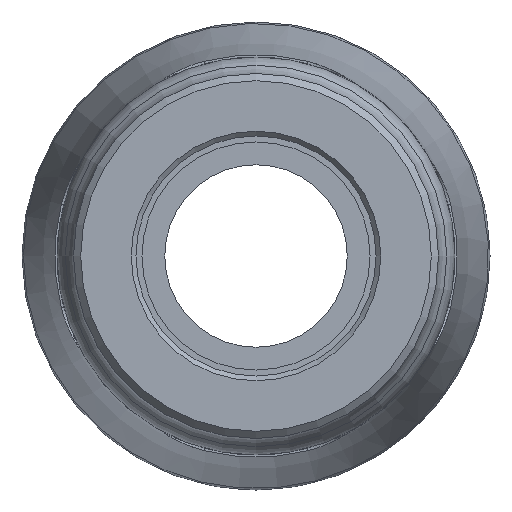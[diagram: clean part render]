
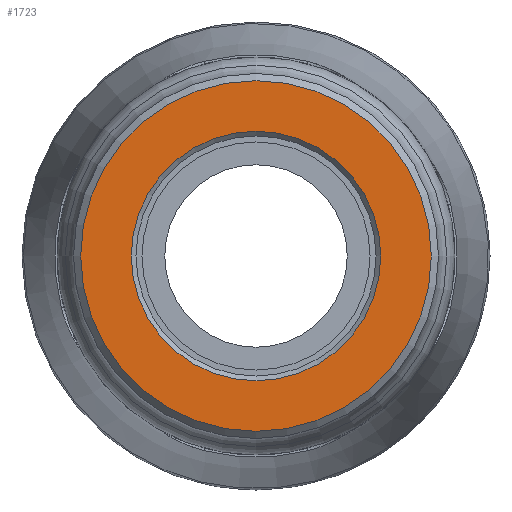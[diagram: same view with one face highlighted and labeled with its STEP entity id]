
A CAD part, left-side view. The second image highlights one B-rep face of the part: STEP entity #1723.
In plain terms, the highlighted planar face has unit normal (-1, 0, 0).
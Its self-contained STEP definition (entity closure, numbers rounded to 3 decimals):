
#28=FACE_BOUND('',#400,.T.);
#211=PLANE('',#1880);
#289=FACE_OUTER_BOUND('',#399,.T.);
#399=EDGE_LOOP('',(#1218));
#400=EDGE_LOOP('',(#1219));
#541=CIRCLE('',#1879,12.529);
#542=CIRCLE('',#1881,17.606);
#727=VERTEX_POINT('',#2982);
#728=VERTEX_POINT('',#2985);
#909=EDGE_CURVE('',#727,#727,#541,.T.);
#910=EDGE_CURVE('',#728,#728,#542,.T.);
#1218=ORIENTED_EDGE('',*,*,#910,.F.);
#1219=ORIENTED_EDGE('',*,*,#909,.F.);
#1723=ADVANCED_FACE('',(#289,#28),#211,.T.);
#1879=AXIS2_PLACEMENT_3D('',#2983,#2171,#2172);
#1880=AXIS2_PLACEMENT_3D('',#2984,#2173,#2174);
#1881=AXIS2_PLACEMENT_3D('',#2986,#2175,#2176);
#2171=DIRECTION('center_axis',(-1.,0.,0.));
#2172=DIRECTION('ref_axis',(0.,-1.,0.));
#2173=DIRECTION('center_axis',(-1.,0.,0.));
#2174=DIRECTION('ref_axis',(0.,0.,1.));
#2175=DIRECTION('center_axis',(1.,0.,0.));
#2176=DIRECTION('ref_axis',(0.,-1.,0.));
#2982=CARTESIAN_POINT('',(0.,12.529,0.));
#2983=CARTESIAN_POINT('Origin',(0.,0.,0.));
#2984=CARTESIAN_POINT('Origin',(0.,18.33,0.));
#2985=CARTESIAN_POINT('',(0.,17.606,0.));
#2986=CARTESIAN_POINT('Origin',(0.,0.,0.));
